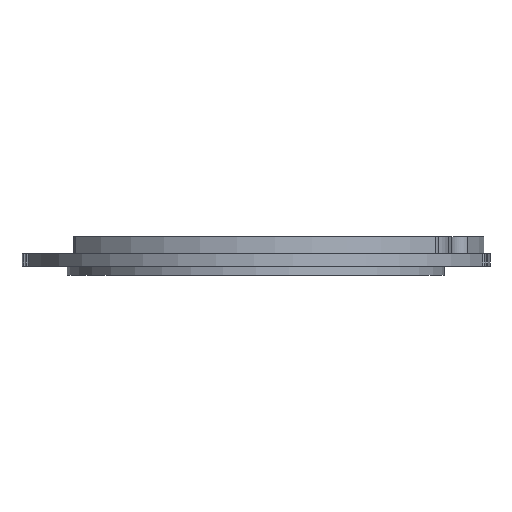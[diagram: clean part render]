
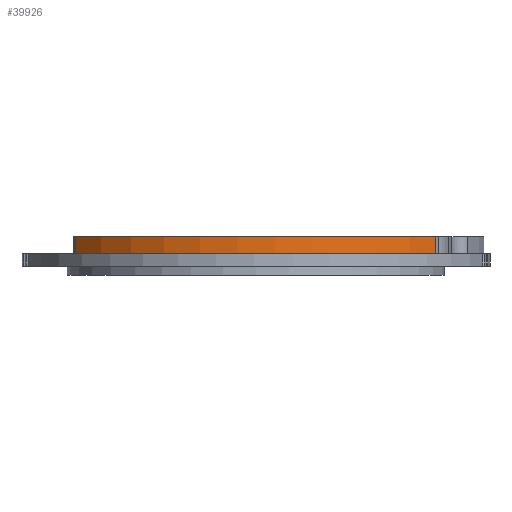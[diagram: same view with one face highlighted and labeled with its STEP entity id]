
A CAD part, front view. The second image highlights one B-rep face of the part: STEP entity #39926.
In plain terms, the highlighted cylindrical face has radius 30.25 mm (diameter 60.5 mm), a partial arc.
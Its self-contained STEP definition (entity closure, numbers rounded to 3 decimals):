
#3636 = CYLINDRICAL_SURFACE ( 'NONE', #41137, 30.25 ) ;
#4475 = EDGE_LOOP ( 'NONE', ( #8077, #17389, #22884, #45440 ) ) ;
#4941 = LINE ( 'NONE', #32427, #9933 ) ;
#8005 = CARTESIAN_POINT ( 'NONE',  ( 25., 25., 2.3 ) ) ;
#8077 = ORIENTED_EDGE ( 'NONE', *, *, #38618, .T. ) ;
#9448 = AXIS2_PLACEMENT_3D ( 'NONE', #51210, #43654, #47572 ) ;
#9746 = VERTEX_POINT ( 'NONE', #15563 ) ;
#9933 = VECTOR ( 'NONE', #20771, 1000. ) ;
#15217 = AXIS2_PLACEMENT_3D ( 'NONE', #16434, #16940, #32755 ) ;
#15563 = CARTESIAN_POINT ( 'NONE',  ( 1.162, 6.377, 2.3 ) ) ;
#16434 = CARTESIAN_POINT ( 'NONE',  ( 25., 25., 0. ) ) ;
#16940 = DIRECTION ( 'NONE',  ( 0., 0., 1. ) ) ;
#17389 = ORIENTED_EDGE ( 'NONE', *, *, #45577, .T. ) ;
#19467 = DIRECTION ( 'NONE',  ( 0., 0., -1. ) ) ;
#19554 = VERTEX_POINT ( 'NONE', #32609 ) ;
#20771 = DIRECTION ( 'NONE',  ( 0., 0., -1. ) ) ;
#21856 = CIRCLE ( 'NONE', #15217, 30.25 ) ;
#22530 = VERTEX_POINT ( 'NONE', #30392 ) ;
#22884 = ORIENTED_EDGE ( 'NONE', *, *, #27838, .F. ) ;
#23373 = FACE_OUTER_BOUND ( 'NONE', #4475, .T. ) ;
#23614 = DIRECTION ( 'NONE',  ( -1., 0., 0. ) ) ;
#25016 = DIRECTION ( 'NONE',  ( 0., 0., 1. ) ) ;
#27838 = EDGE_CURVE ( 'NONE', #9746, #29035, #47588, .T. ) ;
#29035 = VERTEX_POINT ( 'NONE', #31694 ) ;
#30392 = CARTESIAN_POINT ( 'NONE',  ( 48.838, 6.377, 0. ) ) ;
#31694 = CARTESIAN_POINT ( 'NONE',  ( 48.838, 6.377, 2.3 ) ) ;
#32427 = CARTESIAN_POINT ( 'NONE',  ( 1.162, 6.377, 2.3 ) ) ;
#32609 = CARTESIAN_POINT ( 'NONE',  ( 1.162, 6.377, 0. ) ) ;
#32755 = DIRECTION ( 'NONE',  ( 1., 0., 0. ) ) ;
#38618 = EDGE_CURVE ( 'NONE', #19554, #22530, #21856, .T. ) ;
#39926 = ADVANCED_FACE ( 'NONE', ( #23373 ), #3636, .T. ) ;
#41137 = AXIS2_PLACEMENT_3D ( 'NONE', #8005, #19467, #23614 ) ;
#43654 = DIRECTION ( 'NONE',  ( 0., 0., 1. ) ) ;
#44980 = LINE ( 'NONE', #48608, #51382 ) ;
#45440 = ORIENTED_EDGE ( 'NONE', *, *, #47608, .T. ) ;
#45577 = EDGE_CURVE ( 'NONE', #22530, #29035, #44980, .T. ) ;
#47572 = DIRECTION ( 'NONE',  ( 1., 0., 0. ) ) ;
#47588 = CIRCLE ( 'NONE', #9448, 30.25 ) ;
#47608 = EDGE_CURVE ( 'NONE', #9746, #19554, #4941, .T. ) ;
#48608 = CARTESIAN_POINT ( 'NONE',  ( 48.838, 6.377, 2.3 ) ) ;
#51210 = CARTESIAN_POINT ( 'NONE',  ( 25., 25., 2.3 ) ) ;
#51382 = VECTOR ( 'NONE', #25016, 1000. ) ;
